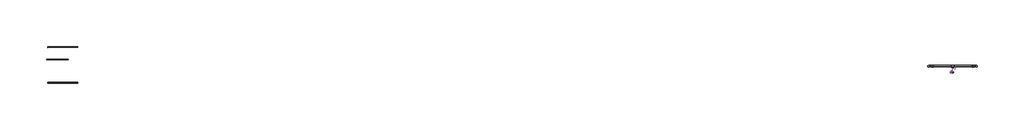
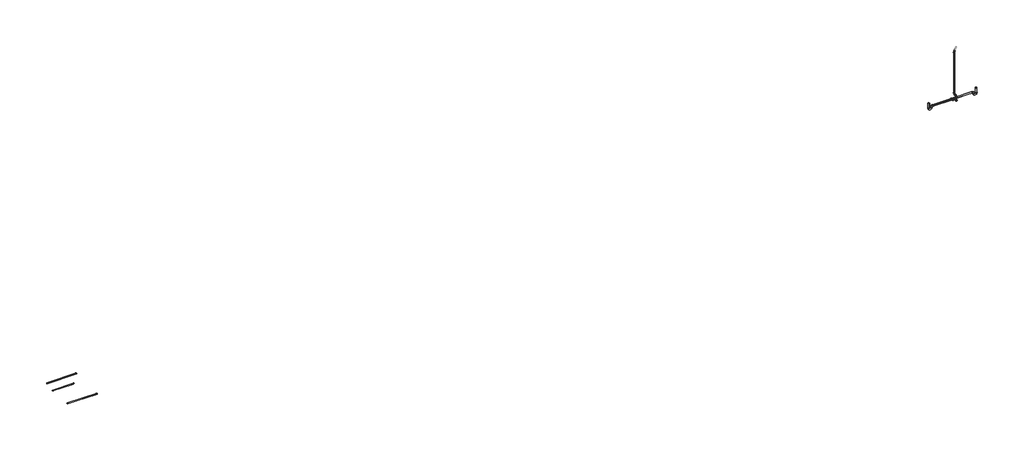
# One storey: 11 pipe segments, 8 pipe fittings.
"""IFC4 building model written with IfcOpenShell, lengths in millimetres."""

from ifc_helpers import new_model, si_unit, point, frame, frame_2d, origin, place, context, project, spatial, circle_curve, trimmed, segment, composite_curve, outline, extrude, transform, mapped, element, save
from ifc_brep_helpers import plane_surface, cylinder_surface, advanced_brep
from components import bend_pvc_sch_40_dwv_standard_5e50359f, bend_pvc_sch_40_dwv_standard_6111f5b4, bend_pvc_sch_40_dwv_standard_bf33f8de, coupling_concentric_reducing_threaded_mi_class_150_standard_7db7402d, pipe_elbow_copper_k_557be1fc, standard_07684040, standard_90b48955, tee_threaded_mi_class_150_standard_4d7a1bad

model = new_model("IFC4")

# Units and contexts
model_context = context("Model", 3, world=origin())
ifc_project = project(units=[si_unit("LENGTHUNIT", "METRE", prefix="MILLI")], contexts=[model_context])

# Site, building, storey
site = spatial("IfcSite", under=ifc_project)
building = spatial("IfcBuilding", under=site)
storey = spatial("IfcBuildingStorey", under=building, Name="T.O FOOTING - INTERIOR", Elevation=-203.2)

# Pipe fittings
placement = place(None, origin())
bend_pvc_sch_40_dwv_standard_shape = bend_pvc_sch_40_dwv_standard_5e50359f(model_context)
element("IfcPipeFitting", 1, ObjectType="Bend - PVC - Sch 40 - DWV : Standard", at=placement, inside=storey, context=model_context, shape_type="MappedRepresentation", body=[
    mapped(bend_pvc_sch_40_dwv_standard_shape, transform((37521.1641646, 8268.003281, 20.5916904), x_axis=(-3.5815455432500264e-06, 0.0, 0.9999999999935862), y_axis=(-0.9999999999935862, 0.0, -3.5815455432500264e-06), z_axis=(0.0, -1.0, 0.0))),
])
bend_pvc_sch_40_dwv_standard_2_shape = bend_pvc_sch_40_dwv_standard_6111f5b4(model_context)
element("IfcPipeFitting", 2, ObjectType="Bend - PVC - Sch 40 - DWV : Standard", at=placement, inside=storey, context=model_context, shape_type="MappedRepresentation", body=[
    mapped(bend_pvc_sch_40_dwv_standard_2_shape, transform((37406.1645306, 8268.003281, 184.8281884), x_axis=(0.0, 0.0, -1.0), y_axis=(1.0, 0.0, 0.0), z_axis=(0.0, -1.0, 0.0))),
])
bend_pvc_sch_40_dwv_standard_3_shape = bend_pvc_sch_40_dwv_standard_bf33f8de(model_context)
element("IfcPipeFitting", 3, ObjectType="Bend - PVC - Sch 40 - DWV : Standard", at=placement, inside=storey, context=model_context, shape_type="MappedRepresentation", body=[
    mapped(bend_pvc_sch_40_dwv_standard_3_shape, transform((37406.0721492, 8268.1003505, 2833.3659187), x_axis=(0.0, 0.0, 1.0), y_axis=(0.7070868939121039, 0.7071266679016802, 0.0), z_axis=(-0.7071266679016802, 0.7070868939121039, 0.0))),
])
coupling_concentric_reducing_threaded_mi_class_150_standard_shape = coupling_concentric_reducing_threaded_mi_class_150_standard_7db7402d(model_context)
element("IfcPipeFitting", 4, ObjectType="Coupling Concentric Reducing - Threaded - MI - Class 150 : Standard", at=placement, inside=storey, context=model_context, shape_type="MappedRepresentation", body=[
    mapped(coupling_concentric_reducing_threaded_mi_class_150_standard_shape, transform((37521.1938332, 8268.031938, -288.6107824), x_axis=(0.0, 0.0, 1.0), y_axis=(-2.3002823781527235e-08, 0.9999999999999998, 0.0), z_axis=(-0.9999999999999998, -2.3002823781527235e-08, 0.0))),
])
pipe_elbow_copper_k_shape = pipe_elbow_copper_k_557be1fc(model_context)
element("IfcPipeFitting", 5, ObjectType="Pipe Elbow : Copper- K", at=placement, inside=storey, context=model_context, shape_type="MappedRepresentation", body=[
    mapped(pipe_elbow_copper_k_shape, transform((-14566.3962848, 9013.7710918, -345.0294199), x_axis=(1.0, 0.0, 0.0), y_axis=(0.0, 0.0, 1.0), z_axis=(0.0, -1.0, 0.0))),
])
standard_shape = standard_07684040(model_context)
element("IfcPipeFitting", 6, ObjectType="GES P TRAP PVC Sch 40 - DWV : Standard", at=placement, inside=storey, context=model_context, shape_type="MappedRepresentation", body=[
    mapped(standard_shape, transform((36095.6921037, 8620.152582, -399.9747551), x_axis=(0.0, 0.0, -1.0), y_axis=(1.0, 0.0, 0.0), z_axis=(0.0, -1.0, 0.0))),
])
standard_2_shape = standard_90b48955(model_context)
element("IfcPipeFitting", 7, ObjectType="GES P TRAP PVC Sch 40 - DWV : Standard", at=placement, inside=storey, context=model_context, shape_type="MappedRepresentation", body=[
    mapped(standard_2_shape, transform((38921.2421037, 8620.1663667, -399.9747551), x_axis=(0.0, 0.0, -1.0), y_axis=(1.0, 0.0, 0.0), z_axis=(0.0, -1.0, 0.0))),
])
tee_threaded_mi_class_150_standard_shape = tee_threaded_mi_class_150_standard_4d7a1bad(model_context)
element("IfcPipeFitting", 8, ObjectType="Tee - Threaded - MI - Class 150 : Standard", at=placement, inside=storey, context=model_context, shape_type="MappedRepresentation", body=[
    mapped(tee_threaded_mi_class_150_standard_shape, transform((37521.1951871, 8620.1594744, -399.9747551), x_axis=(0.999999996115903, 8.813736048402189e-05, 0.0), y_axis=(-8.812980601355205e-05, 0.9999142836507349, 0.013092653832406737), z_axis=(1.153951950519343e-06, -0.013092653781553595, 0.999914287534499))),
])

# Pipe segments
element("IfcPipeSegment", 9, ObjectType="Copper", at=placement, inside=storey, context=model_context, shape_type="SweptSolid", body=[
    extrude(outline(composite_curve([segment(trimmed(circle_curve(frame_2d((0.0, 26.9875)), 26.9875), [point((-26.9875, 26.9875))], [point((0.0, 53.975))], False, "CARTESIAN"), True, "CONTINUOUS"), segment(trimmed(circle_curve(frame_2d((0.0, 26.9875)), 26.9875), [point((0.0, 53.975))], [point((26.9875, 26.9875))], False, "CARTESIAN"), True, "CONTINUOUS"), segment(trimmed(circle_curve(frame_2d((0.0, 26.9875)), 26.9875), [point((26.9875, 26.9875))], [point((0.0, 0.0))], False, "CARTESIAN"), True, "CONTINUOUS"), segment(trimmed(circle_curve(frame_2d((0.0, 26.9875)), 26.9875), [point((0.0, 0.0))], [point((-26.9875, 26.9875))], False, "CARTESIAN"), True, "CONTINUOUS")], self_intersect=False)), frame((-13969.5786682, 7642.1354003, -372.0169199), z_axis=(-0.9999999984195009, 5.622275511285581e-05, 0.0), x_axis=(-5.622275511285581e-05, -0.9999999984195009, 0.0)), (0.0, 0.0, 1.0), 1766.9008523),
])
element("IfcPipeSegment", 10, ObjectType="Copper", at=placement, inside=storey, context=model_context, shape_type="SweptSolid", body=[
    extrude(outline(composite_curve([segment(trimmed(circle_curve(frame_2d((0.0, -26.9875)), 26.9875), [point((-26.9875, -26.9875))], [point((0.0, 0.0))], False, "CARTESIAN"), True, "CONTINUOUS"), segment(trimmed(circle_curve(frame_2d((0.0, -26.9875)), 26.9875), [point((0.0, 0.0))], [point((26.9875, -26.9875))], False, "CARTESIAN"), True, "CONTINUOUS"), segment(trimmed(circle_curve(frame_2d((0.0, -26.9875)), 26.9875), [point((26.9875, -26.9875))], [point((0.0, -53.975))], False, "CARTESIAN"), True, "CONTINUOUS"), segment(trimmed(circle_curve(frame_2d((0.0, -26.9875)), 26.9875), [point((0.0, -53.975))], [point((-26.9875, -26.9875))], False, "CARTESIAN"), True, "CONTINUOUS")], self_intersect=False)), frame((-15736.4661682, 9745.5281709, -372.0169199), z_axis=(0.9999962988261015, 0.002720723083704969, 0.0), x_axis=(0.002720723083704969, -0.9999962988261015, 0.0)), (0.0, 0.0, 1.0), 1766.8940396),
])
element("IfcPipeSegment", 11, ObjectType="Copper", at=placement, inside=storey, context=model_context, shape_type="AdvancedBrep", body=[
    advanced_brep(
    [(-14596.5587848, 9034.4085918, -345.0294199), (-14596.5587848, 9013.7710918, -324.3919199), (-14596.5587848, 8993.1335918, -345.0294199), (-14596.5587848, 9013.7710918, -365.6669199), (-15815.8545177, 9034.4085921, -345.0294199), (-15815.8545177, 9013.7710921, -365.6669199), (-15815.8545177, 8993.1335921, -345.0294199), (-15815.8545177, 9013.7710921, -324.3919199)],
    [
        (0, 1, circle_curve(frame((-14596.5587848, 9013.7710918, -345.0294199), z_axis=(1.0, 0.0, 0.0), x_axis=(0.0, 1.0, 0.0)), 20.6375)),
        (1, 2, circle_curve(frame((-14596.5587848, 9013.7710918, -345.0294199), z_axis=(1.0, 0.0, 0.0), x_axis=(0.0, 1.0, 0.0)), 20.6375)),
        (2, 3, circle_curve(frame((-14596.5587848, 9013.7710918, -345.0294199), z_axis=(1.0, 0.0, 0.0), x_axis=(0.0, 1.0, 0.0)), 20.6375)),
        (3, 0, circle_curve(frame((-14596.5587848, 9013.7710918, -345.0294199), z_axis=(1.0, 0.0, 0.0), x_axis=(0.0, 1.0, 0.0)), 20.6375)),
        (4, 5, circle_curve(frame((-15815.8545177, 9013.7710918, -345.0294199), z_axis=(-1.0, 0.0, 0.0), x_axis=(0.0, 1.0, 0.0)), 20.6375003)),
        (5, 6, circle_curve(frame((-15815.8545177, 9013.7710918, -345.0294199), z_axis=(-1.0, 0.0, 0.0), x_axis=(0.0, 1.0, 0.0)), 20.6375)),
        (6, 7, circle_curve(frame((-15815.8545177, 9013.7710918, -345.0294199), z_axis=(-1.0, 0.0, 0.0), x_axis=(0.0, 1.0, 0.0)), 20.6374997)),
        (7, 4, circle_curve(frame((-15815.8545177, 9013.7710918, -345.0294199), z_axis=(-1.0, 0.0, 0.0), x_axis=(0.0, 1.0, 0.0)), 20.6375)),
        (0, 4),
        (7, 1),
        (6, 2),
        (5, 3),
    ],
    [
        plane_surface(frame((-14596.5587848, 9013.7710918, -365.6669199), z_axis=(1.0, 0.0, 0.0), x_axis=(0.0, -1.0, 0.0))),
        plane_surface(frame((-15815.8545177, 9013.7710921, -365.6669199), z_axis=(-1.0, 0.0, 0.0), x_axis=(0.0, -1.0, 0.0))),
        cylinder_surface(frame((-14596.5587848, 9013.7710918, -345.0294199), z_axis=(1.0, 0.0, 0.0), x_axis=(0.0, 1.0, 0.0)), 20.6375),
    ],
    [
        (0, [[1, 2, 3, 4]]),
        (1, [[5, 6, 7, 8]]),
        (2, [[-1, 9, -8, 10]]),
        (2, [[-2, -10, -7, 11]]),
        (2, [[-3, -11, -6, 12]]),
        (2, [[-4, -12, -5, -9]]),
    ],
),
])
element("IfcPipeSegment", 12, ObjectType="PVC - SAN/STORM", at=placement, inside=storey, context=model_context, shape_type="SweptSolid", body=[
    extrude(outline(composite_curve([segment(trimmed(circle_curve(frame_2d((0.0, -44.45)), 44.45), [point((-44.45, -44.45))], [point((0.0, 0.0))], False, "CARTESIAN"), True, "CONTINUOUS"), segment(trimmed(circle_curve(frame_2d((0.0, -44.45)), 44.45), [point((0.0, 0.0))], [point((44.45, -44.45))], False, "CARTESIAN"), True, "CONTINUOUS"), segment(trimmed(circle_curve(frame_2d((0.0, -44.45)), 44.45), [point((44.45, -44.45))], [point((0.0, -88.9))], False, "CARTESIAN"), True, "CONTINUOUS"), segment(trimmed(circle_curve(frame_2d((0.0, -44.45)), 44.45), [point((0.0, -88.9))], [point((-44.45, -44.45))], False, "CARTESIAN"), True, "CONTINUOUS")], self_intersect=False)), frame((36095.6921037, 8575.702582, -458.7114115), z_axis=(0.0, 1.898040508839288e-05, 0.9999999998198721), x_axis=(-1.0, 0.0, 0.0)), (0.0, 0.0, 1.0), 284.0872552),
])
element("IfcPipeSegment", 13, ObjectType="PVC - SAN/STORM", at=placement, inside=storey, context=model_context, shape_type="SweptSolid", body=[
    extrude(outline(composite_curve([segment(trimmed(circle_curve(frame_2d((0.0, -44.4499999)), 44.45), [point((-44.45, -44.4499999))], [point((0.0, 0.0))], False, "CARTESIAN"), True, "CONTINUOUS"), segment(trimmed(circle_curve(frame_2d((0.0, -44.4499999)), 44.45), [point((0.0, 0.0))], [point((44.45, -44.4499999))], False, "CARTESIAN"), True, "CONTINUOUS"), segment(trimmed(circle_curve(frame_2d((0.0, -44.4499999)), 44.45), [point((44.45, -44.4499999))], [point((0.0, -88.9))], False, "CARTESIAN"), True, "CONTINUOUS"), segment(trimmed(circle_curve(frame_2d((0.0, -44.4499999)), 44.45), [point((0.0, -88.9))], [point((-44.45, -44.4499999))], False, "CARTESIAN"), True, "CONTINUOUS")], self_intersect=False)), frame((38921.2421037, 8575.7163668, -458.7106566), z_axis=(0.0, 3.596252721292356e-05, 0.9999999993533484), x_axis=(-1.0, 0.0, 0.0)), (0.0, 0.0, 1.0), 284.0872553),
])
element("IfcPipeSegment", 14, ObjectType="PVC - SAN/STORM", at=placement, inside=storey, context=model_context, shape_type="SweptSolid", body=[
    extrude(outline(composite_curve([segment(trimmed(circle_curve(frame_2d((8620.152582, -399.9747551)), 44.45), [point((8664.602582, -399.9747551))], [point((8620.152582, -444.4247551))], False, "CARTESIAN"), True, "CONTINUOUS"), segment(trimmed(circle_curve(frame_2d((8620.152582, -399.9747551)), 44.45), [point((8620.152582, -444.4247551))], [point((8575.702582, -399.9747551))], False, "CARTESIAN"), True, "CONTINUOUS"), segment(trimmed(circle_curve(frame_2d((8620.152582, -399.9747551)), 44.45), [point((8575.702582, -399.9747551))], [point((8620.152582, -355.5247551))], False, "CARTESIAN"), True, "CONTINUOUS"), segment(trimmed(circle_curve(frame_2d((8620.152582, -399.9747551)), 44.45), [point((8620.152582, -355.5247551))], [point((8664.602582, -399.9747551))], False, "CARTESIAN"), True, "CONTINUOUS")], self_intersect=False)), frame((36360.8046037, 0.0, 0.0), z_axis=(1.0, 0.0, 0.0), x_axis=(0.0, 1.0, 0.0)), (0.0, 0.0, 1.0), 1082.1905837),
])
element("IfcPipeSegment", 15, ObjectType="PVC - SAN/STORM", at=placement, inside=storey, context=model_context, shape_type="SweptSolid", body=[
    extrude(outline(composite_curve([segment(trimmed(circle_curve(frame_2d((8620.1663667, -399.9747551)), 44.45), [point((8664.6163667, -399.9747551))], [point((8620.1663667, -444.4247551))], False, "CARTESIAN"), True, "CONTINUOUS"), segment(trimmed(circle_curve(frame_2d((8620.1663667, -399.9747551)), 44.45), [point((8620.1663667, -444.4247551))], [point((8575.7163667, -399.9747551))], False, "CARTESIAN"), True, "CONTINUOUS"), segment(trimmed(circle_curve(frame_2d((8620.1663667, -399.9747551)), 44.45), [point((8575.7163667, -399.9747551))], [point((8620.1663667, -355.5247551))], False, "CARTESIAN"), True, "CONTINUOUS"), segment(trimmed(circle_curve(frame_2d((8620.1663667, -399.9747551)), 44.45), [point((8620.1663667, -355.5247551))], [point((8664.6163667, -399.9747551))], False, "CARTESIAN"), True, "CONTINUOUS")], self_intersect=False)), frame((37599.3951868, 0.0, 0.0), z_axis=(1.0, 0.0, 0.0), x_axis=(0.0, 1.0, 0.0)), (0.0, 0.0, 1.0), 1056.7344169),
])
element("IfcPipeSegment", 16, ObjectType="PVC - SAN/STORM", at=placement, inside=storey, context=model_context, shape_type="SweptSolid", body=[
    extrude(outline(composite_curve([segment(trimmed(circle_curve(frame_2d((0.0, 30.1625)), 30.1625), [point((-30.1625, 30.1625))], [point((0.0, 60.325))], False, "CARTESIAN"), True, "CONTINUOUS"), segment(trimmed(circle_curve(frame_2d((0.0, 30.1625)), 30.1625), [point((0.0, 60.325))], [point((30.1625, 30.1625))], False, "CARTESIAN"), True, "CONTINUOUS"), segment(trimmed(circle_curve(frame_2d((0.0, 30.1625)), 30.1625), [point((30.1625, 30.1625))], [point((1e-07, 0.0))], False, "CARTESIAN"), True, "CONTINUOUS"), segment(trimmed(circle_curve(frame_2d((0.0, 30.1625)), 30.1625), [point((1e-07, 0.0))], [point((-30.1625, 30.1625))], False, "CARTESIAN"), True, "CONTINUOUS")], self_intersect=False)), frame((37521.1938332, 8237.869438, -194.909755), z_axis=(6.850446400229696e-06, 3.4060580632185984e-05, 0.9999999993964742), x_axis=(0.9999999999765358, -2.3333157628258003e-10, -6.850446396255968e-06)), (0.0, 0.0, 1.0), 158.3088451),
])
element("IfcPipeSegment", 17, ObjectType="PVC - SAN/STORM", at=placement, inside=storey, context=model_context, shape_type="SweptSolid", body=[
    extrude(outline(composite_curve([segment(trimmed(circle_curve(frame_2d((37406.0721492, 8268.1003505)), 30.1625), [point((37375.9096492, 8268.1003505))], [point((37406.0721492, 8298.2628505))], False, "CARTESIAN"), True, "CONTINUOUS"), segment(trimmed(circle_curve(frame_2d((37406.0721492, 8268.1003505)), 30.1625), [point((37406.0721492, 8298.2628505))], [point((37436.2346492, 8268.1003505))], False, "CARTESIAN"), True, "CONTINUOUS"), segment(trimmed(circle_curve(frame_2d((37406.0721492, 8268.1003505)), 30.1625), [point((37436.2346492, 8268.1003505))], [point((37406.0721492, 8237.9378505))], False, "CARTESIAN"), True, "CONTINUOUS"), segment(trimmed(circle_curve(frame_2d((37406.0721492, 8268.1003505)), 30.1625), [point((37406.0721492, 8237.9378505))], [point((37375.9096492, 8268.1003505))], False, "CARTESIAN"), True, "CONTINUOUS")], self_intersect=False)), frame((0.0, 0.0, 242.1101227), z_axis=(0.0, 0.0, 1.0), x_axis=(1.0, 0.0, 0.0)), (0.0, 0.0, 1.0), 2513.455596),
])
element("IfcPipeSegment", 18, ObjectType="PVC - SAN/STORM", at=placement, inside=storey, context=model_context, shape_type="SweptSolid", body=[
    extrude(outline(composite_curve([segment(trimmed(circle_curve(frame_2d((0.0, -30.1625)), 30.1625), [point((0.0, -60.325))], [point((-30.1624999, -30.1625))], False, "CARTESIAN"), True, "CONTINUOUS"), segment(trimmed(circle_curve(frame_2d((0.0, -30.1625)), 30.1625), [point((-30.1624999, -30.1625))], [point((0.0, 0.0))], False, "CARTESIAN"), True, "CONTINUOUS"), segment(trimmed(circle_curve(frame_2d((0.0, -30.1625)), 30.1625), [point((0.0, 0.0))], [point((30.1625001, -30.1625))], False, "CARTESIAN"), True, "CONTINUOUS"), segment(trimmed(circle_curve(frame_2d((0.0, -30.1625)), 30.1625), [point((30.1625001, -30.1625))], [point((0.0, -60.325))], False, "CARTESIAN"), True, "CONTINUOUS")], self_intersect=False)), frame((37488.3842712, 8298.165781, 67.4062297), z_axis=(-0.5735764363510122, 0.0, 0.8191520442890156), x_axis=(0.8191520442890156, 0.0, 0.5735764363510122)), (0.0, 0.0, 1.0), 86.1957433),
])
element("IfcPipeSegment", 19, ObjectType="PVC - SAN/STORM", at=placement, inside=storey, context=model_context, shape_type="SweptSolid", body=[
    extrude(outline(composite_curve([segment(trimmed(circle_curve(frame_2d((-1e-07, 30.1625001)), 30.1625), [point((30.1616824, 29.9404067))], [point((-0.2220934, 0.0008177))], False, "CARTESIAN"), True, "CONTINUOUS"), segment(trimmed(circle_curve(frame_2d((-1e-07, 30.1625001)), 30.1625), [point((-0.2220934, 0.0008177))], [point((-30.1616823, 30.3845935))], False, "CARTESIAN"), True, "CONTINUOUS"), segment(trimmed(circle_curve(frame_2d((-1e-07, 30.1625001)), 30.1625), [point((-30.1616823, 30.3845935))], [point((0.2220934, 60.3241824))], False, "CARTESIAN"), True, "CONTINUOUS"), segment(trimmed(circle_curve(frame_2d((-1e-07, 30.1625001)), 30.1625), [point((0.2220934, 60.3241824))], [point((30.1616824, 29.9404067))], False, "CARTESIAN"), True, "CONTINUOUS")], self_intersect=False)), frame((37461.0821594, 8322.7993587, 2864.0996917), z_axis=(0.7070677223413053, 0.7071074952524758, 0.0073638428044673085), x_axis=(0.7071458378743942, -0.7070293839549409, -0.00736302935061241)), (0.0, 0.0, 1.0), 317.4745528),
])

save(model, "model.ifc")
